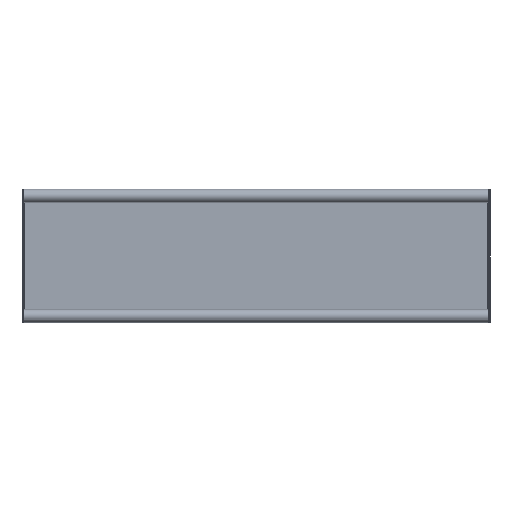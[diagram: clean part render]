
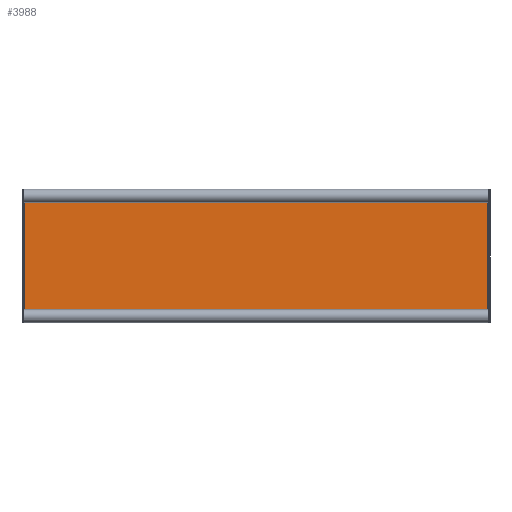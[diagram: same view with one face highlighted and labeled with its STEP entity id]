
A CAD part, front view. The second image highlights one B-rep face of the part: STEP entity #3988.
In plain terms, the highlighted planar face has unit normal (0, -1, 0).
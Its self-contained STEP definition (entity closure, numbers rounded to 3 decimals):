
#21 = ORIENTED_EDGE ( 'NONE', *, *, #432, .F. ) ;
#105 = DIRECTION ( 'NONE',  ( 0., 0., 1. ) ) ;
#160 = LINE ( 'NONE', #4719, #4248 ) ;
#174 = CIRCLE ( 'NONE', #4814, 5. ) ;
#417 = CIRCLE ( 'NONE', #9197, 5. ) ;
#432 = EDGE_CURVE ( 'NONE', #2870, #720, #7630, .T. ) ;
#440 = VECTOR ( 'NONE', #4753, 1000. ) ;
#720 = VERTEX_POINT ( 'NONE', #5359 ) ;
#758 = ORIENTED_EDGE ( 'NONE', *, *, #7937, .F. ) ;
#925 = DIRECTION ( 'NONE',  ( 0., 0., 1. ) ) ;
#981 = CIRCLE ( 'NONE', #9274, 5. ) ;
#1219 = VECTOR ( 'NONE', #2384, 1000. ) ;
#1389 = EDGE_CURVE ( 'NONE', #9740, #1596, #3769, .T. ) ;
#1596 = VERTEX_POINT ( 'NONE', #7038 ) ;
#1684 = CARTESIAN_POINT ( 'NONE',  ( -349., -2., 96. ) ) ;
#1735 = CARTESIAN_POINT ( 'NONE',  ( 349., -2., -99. ) ) ;
#1738 = LINE ( 'NONE', #1684, #1219 ) ;
#1794 = ORIENTED_EDGE ( 'NONE', *, *, #8927, .F. ) ;
#2185 = DIRECTION ( 'NONE',  ( 0., 0., 1. ) ) ;
#2193 = CARTESIAN_POINT ( 'NONE',  ( 346., -2., 95. ) ) ;
#2384 = DIRECTION ( 'NONE',  ( 1., 0., 0. ) ) ;
#2414 = VERTEX_POINT ( 'NONE', #7442 ) ;
#2465 = CARTESIAN_POINT ( 'NONE',  ( 346., -2., -95. ) ) ;
#2481 = DIRECTION ( 'NONE',  ( 0., -1., 0. ) ) ;
#2870 = VERTEX_POINT ( 'NONE', #6478 ) ;
#2876 = CARTESIAN_POINT ( 'NONE',  ( -345., -2., 96. ) ) ;
#3024 = VERTEX_POINT ( 'NONE', #2876 ) ;
#3039 = CARTESIAN_POINT ( 'NONE',  ( -349., -2., -99. ) ) ;
#3087 = ORIENTED_EDGE ( 'NONE', *, *, #4888, .F. ) ;
#3222 = CARTESIAN_POINT ( 'NONE',  ( -349., -2., -96. ) ) ;
#3241 = CARTESIAN_POINT ( 'NONE',  ( -349., -2., -99. ) ) ;
#3648 = PLANE ( 'NONE',  #4261 ) ;
#3769 = CIRCLE ( 'NONE', #9341, 5. ) ;
#3980 = CARTESIAN_POINT ( 'NONE',  ( -349., -2., 99. ) ) ;
#3988 = ADVANCED_FACE ( 'NONE', ( #5123 ), #3648, .F. ) ;
#4248 = VECTOR ( 'NONE', #925, 1000. ) ;
#4261 = AXIS2_PLACEMENT_3D ( 'NONE', #3039, #4420, #2185 ) ;
#4276 = CARTESIAN_POINT ( 'NONE',  ( 349., -2., 99. ) ) ;
#4420 = DIRECTION ( 'NONE',  ( 0., 1., 0. ) ) ;
#4719 = CARTESIAN_POINT ( 'NONE',  ( 346., -2., -99. ) ) ;
#4753 = DIRECTION ( 'NONE',  ( 1., 0., 0. ) ) ;
#4814 = AXIS2_PLACEMENT_3D ( 'NONE', #3980, #5415, #105 ) ;
#4816 = DIRECTION ( 'NONE',  ( 0., 0., 1. ) ) ;
#4888 = EDGE_CURVE ( 'NONE', #3024, #9058, #1738, .T. ) ;
#4902 = EDGE_CURVE ( 'NONE', #9740, #8570, #160, .T. ) ;
#5123 = FACE_OUTER_BOUND ( 'NONE', #9417, .T. ) ;
#5359 = CARTESIAN_POINT ( 'NONE',  ( -346., -2., 95. ) ) ;
#5415 = DIRECTION ( 'NONE',  ( 0., -1., 0. ) ) ;
#5815 = EDGE_CURVE ( 'NONE', #2414, #2870, #417, .T. ) ;
#5989 = CARTESIAN_POINT ( 'NONE',  ( -346., -2., -99. ) ) ;
#6212 = LINE ( 'NONE', #3222, #440 ) ;
#6478 = CARTESIAN_POINT ( 'NONE',  ( -346., -2., -95. ) ) ;
#6579 = DIRECTION ( 'NONE',  ( 0., -1., 0. ) ) ;
#6708 = EDGE_CURVE ( 'NONE', #2414, #1596, #6212, .T. ) ;
#7038 = CARTESIAN_POINT ( 'NONE',  ( 345., -2., -96. ) ) ;
#7063 = DIRECTION ( 'NONE',  ( 0., 0., 1. ) ) ;
#7269 = DIRECTION ( 'NONE',  ( 0., 0., 1. ) ) ;
#7327 = ORIENTED_EDGE ( 'NONE', *, *, #6708, .T. ) ;
#7442 = CARTESIAN_POINT ( 'NONE',  ( -345., -2., -96. ) ) ;
#7630 = LINE ( 'NONE', #5989, #8689 ) ;
#7800 = DIRECTION ( 'NONE',  ( 0., -1., 0. ) ) ;
#7937 = EDGE_CURVE ( 'NONE', #9058, #8570, #981, .T. ) ;
#8388 = ORIENTED_EDGE ( 'NONE', *, *, #1389, .F. ) ;
#8548 = ORIENTED_EDGE ( 'NONE', *, *, #5815, .F. ) ;
#8570 = VERTEX_POINT ( 'NONE', #2193 ) ;
#8689 = VECTOR ( 'NONE', #9129, 1000. ) ;
#8927 = EDGE_CURVE ( 'NONE', #720, #3024, #174, .T. ) ;
#8950 = ORIENTED_EDGE ( 'NONE', *, *, #4902, .T. ) ;
#8978 = CARTESIAN_POINT ( 'NONE',  ( 345., -2., 96. ) ) ;
#9058 = VERTEX_POINT ( 'NONE', #8978 ) ;
#9129 = DIRECTION ( 'NONE',  ( 0., 0., 1. ) ) ;
#9197 = AXIS2_PLACEMENT_3D ( 'NONE', #3241, #2481, #7063 ) ;
#9274 = AXIS2_PLACEMENT_3D ( 'NONE', #4276, #6579, #7269 ) ;
#9341 = AXIS2_PLACEMENT_3D ( 'NONE', #1735, #7800, #4816 ) ;
#9417 = EDGE_LOOP ( 'NONE', ( #8388, #8950, #758, #3087, #1794, #21, #8548, #7327 ) ) ;
#9740 = VERTEX_POINT ( 'NONE', #2465 ) ;
